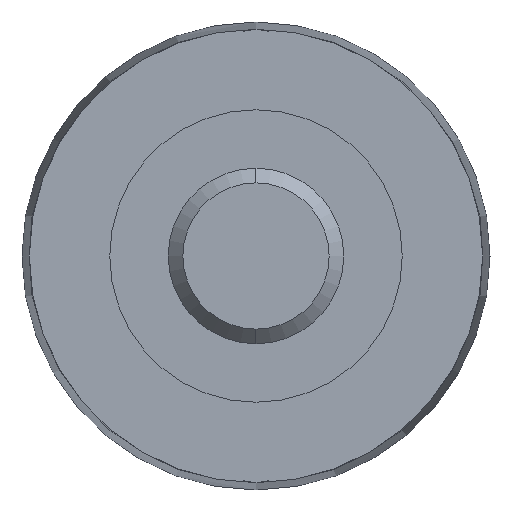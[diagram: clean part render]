
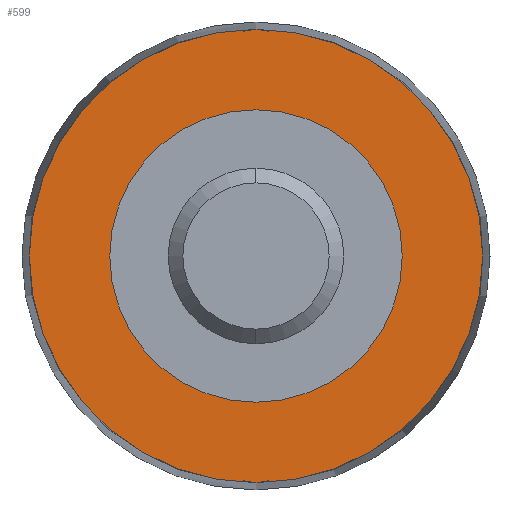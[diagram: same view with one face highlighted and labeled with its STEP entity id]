
A CAD part, left-side view. The second image highlights one B-rep face of the part: STEP entity #599.
In plain terms, the highlighted planar face has unit normal (-1, 0, 0).
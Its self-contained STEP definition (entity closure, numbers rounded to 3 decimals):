
#4 = EDGE_CURVE ( 'NONE', #563, #209, #294, .T. ) ;
#25 = CARTESIAN_POINT ( 'NONE',  ( -260., 0., 0. ) ) ;
#46 = FACE_OUTER_BOUND ( 'NONE', #91, .T. ) ;
#49 = DIRECTION ( 'NONE',  ( -1., 0., 0. ) ) ;
#91 = EDGE_LOOP ( 'NONE', ( #414, #139 ) ) ;
#130 = ORIENTED_EDGE ( 'NONE', *, *, #419, .F. ) ;
#135 = DIRECTION ( 'NONE',  ( 1., 0., 0. ) ) ;
#139 = ORIENTED_EDGE ( 'NONE', *, *, #200, .T. ) ;
#163 = CIRCLE ( 'NONE', #205, 15.5 ) ;
#176 = DIRECTION ( 'NONE',  ( -1., 0., 0. ) ) ;
#183 = DIRECTION ( 'NONE',  ( 0., 0., 1. ) ) ;
#194 = CARTESIAN_POINT ( 'NONE',  ( -260., 0., 10. ) ) ;
#197 = ORIENTED_EDGE ( 'NONE', *, *, #4, .F. ) ;
#200 = EDGE_CURVE ( 'NONE', #343, #446, #248, .T. ) ;
#204 = CARTESIAN_POINT ( 'NONE',  ( -260., 0., 0. ) ) ;
#205 = AXIS2_PLACEMENT_3D ( 'NONE', #226, #372, #580 ) ;
#209 = VERTEX_POINT ( 'NONE', #229 ) ;
#215 = AXIS2_PLACEMENT_3D ( 'NONE', #635, #385, #183 ) ;
#226 = CARTESIAN_POINT ( 'NONE',  ( -260., 0., 0. ) ) ;
#229 = CARTESIAN_POINT ( 'NONE',  ( -260., 0., -10. ) ) ;
#236 = DIRECTION ( 'NONE',  ( 0., 0., 1. ) ) ;
#248 = CIRCLE ( 'NONE', #525, 15.5 ) ;
#253 = EDGE_LOOP ( 'NONE', ( #197, #130 ) ) ;
#283 = DIRECTION ( 'NONE',  ( 0., 0., 1. ) ) ;
#294 = CIRCLE ( 'NONE', #215, 10. ) ;
#330 = CARTESIAN_POINT ( 'NONE',  ( -260., 0., 15.5 ) ) ;
#339 = DIRECTION ( 'NONE',  ( 0., 0., -1. ) ) ;
#343 = VERTEX_POINT ( 'NONE', #330 ) ;
#372 = DIRECTION ( 'NONE',  ( -1., 0., 0. ) ) ;
#385 = DIRECTION ( 'NONE',  ( -1., 0., 0. ) ) ;
#400 = CARTESIAN_POINT ( 'NONE',  ( -260., 0., -15.5 ) ) ;
#414 = ORIENTED_EDGE ( 'NONE', *, *, #480, .T. ) ;
#419 = EDGE_CURVE ( 'NONE', #209, #563, #471, .T. ) ;
#446 = VERTEX_POINT ( 'NONE', #400 ) ;
#447 = CARTESIAN_POINT ( 'NONE',  ( -260., 10., 0. ) ) ;
#454 = AXIS2_PLACEMENT_3D ( 'NONE', #204, #49, #236 ) ;
#471 = CIRCLE ( 'NONE', #454, 10. ) ;
#480 = EDGE_CURVE ( 'NONE', #446, #343, #163, .T. ) ;
#525 = AXIS2_PLACEMENT_3D ( 'NONE', #25, #176, #283 ) ;
#535 = AXIS2_PLACEMENT_3D ( 'NONE', #447, #135, #339 ) ;
#563 = VERTEX_POINT ( 'NONE', #194 ) ;
#566 = FACE_BOUND ( 'NONE', #253, .T. ) ;
#580 = DIRECTION ( 'NONE',  ( 0., 0., 1. ) ) ;
#591 = PLANE ( 'NONE',  #535 ) ;
#599 = ADVANCED_FACE ( 'NONE', ( #566, #46 ), #591, .F. ) ;
#635 = CARTESIAN_POINT ( 'NONE',  ( -260., 0., 0. ) ) ;
